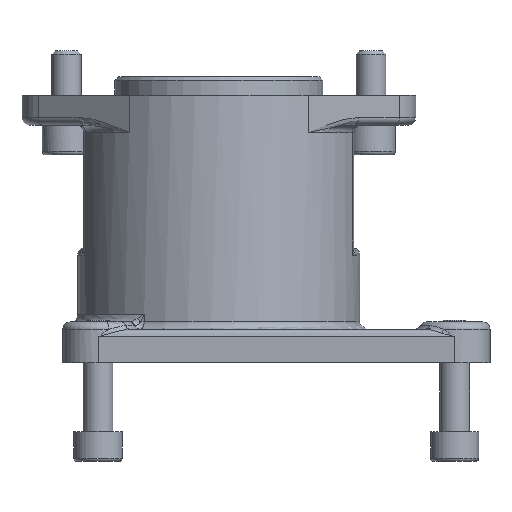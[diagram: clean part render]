
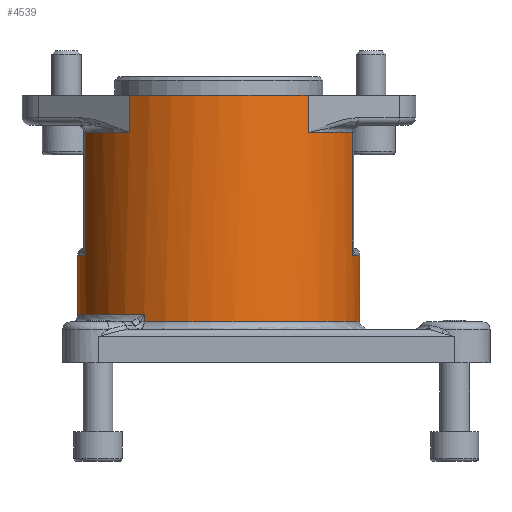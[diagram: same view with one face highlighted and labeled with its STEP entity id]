
A CAD part, left-side view. The second image highlights one B-rep face of the part: STEP entity #4539.
In plain terms, the highlighted cylindrical face has radius 38 mm (diameter 76 mm), a full revolution.
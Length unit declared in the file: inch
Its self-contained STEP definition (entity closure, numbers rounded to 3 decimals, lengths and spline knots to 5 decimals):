
#419=CYLINDRICAL_SURFACE('',#5071,1.49606);
#675=FACE_OUTER_BOUND('',#978,.T.);
#978=EDGE_LOOP('',(#3884,#3885,#3886,#3887,#3888,#3889,#3890,#3891,#3892,
#3893,#3894,#3895,#3896,#3897,#3898,#3899,#3900,#3901,#3902,#3903,#3904,
#3905,#3906,#3907));
#1176=LINE('',#7823,#1400);
#1199=LINE('',#8189,#1423);
#1203=LINE('',#8322,#1427);
#1205=LINE('',#8326,#1429);
#1211=LINE('',#8505,#1435);
#1213=LINE('',#8522,#1437);
#1214=LINE('',#8536,#1438);
#1215=LINE('',#8538,#1439);
#1216=LINE('',#8539,#1440);
#1217=LINE('',#8541,#1441);
#1218=LINE('',#8544,#1442);
#1400=VECTOR('',#6026,0.3937);
#1423=VECTOR('',#6177,0.3937);
#1427=VECTOR('',#6203,0.3937);
#1429=VECTOR('',#6209,0.3937);
#1435=VECTOR('',#6285,0.3937);
#1437=VECTOR('',#6293,0.3937);
#1438=VECTOR('',#6296,0.3937);
#1439=VECTOR('',#6299,0.3937);
#1440=VECTOR('',#6300,1.49606);
#1441=VECTOR('',#6301,0.3937);
#1442=VECTOR('',#6304,0.3937);
#1569=CIRCLE('',#4846,1.49606);
#1570=CIRCLE('',#4847,1.49606);
#1572=CIRCLE('',#4849,1.49606);
#1642=CIRCLE('',#4958,1.49606);
#1643=CIRCLE('',#4959,1.49606);
#1646=CIRCLE('',#4966,1.49606);
#1680=CIRCLE('',#5035,1.49606);
#1689=CIRCLE('',#5048,1.49606);
#1692=CIRCLE('',#5053,1.49606);
#1699=CIRCLE('',#5064,1.49606);
#1702=CIRCLE('',#5072,1.49606);
#1703=CIRCLE('',#5073,1.49606);
#1889=VERTEX_POINT('',#7027);
#1949=VERTEX_POINT('',#7242);
#1952=VERTEX_POINT('',#7247);
#1953=VERTEX_POINT('',#7249);
#1954=VERTEX_POINT('',#7251);
#1957=VERTEX_POINT('',#7257);
#1990=VERTEX_POINT('',#7386);
#2018=VERTEX_POINT('',#7558);
#2020=VERTEX_POINT('',#7686);
#2026=VERTEX_POINT('',#7819);
#2027=VERTEX_POINT('',#7826);
#2063=VERTEX_POINT('',#8234);
#2067=VERTEX_POINT('',#8303);
#2068=VERTEX_POINT('',#8328);
#2070=VERTEX_POINT('',#8372);
#2078=VERTEX_POINT('',#8449);
#2080=VERTEX_POINT('',#8469);
#2083=VERTEX_POINT('',#8486);
#2085=VERTEX_POINT('',#8496);
#2089=VERTEX_POINT('',#8521);
#2090=VERTEX_POINT('',#8540);
#2091=VERTEX_POINT('',#8542);
#2451=EDGE_CURVE('',#1953,#1952,#1569,.T.);
#2452=EDGE_CURVE('',#1954,#1953,#1570,.T.);
#2456=EDGE_CURVE('',#1949,#1957,#1572,.T.);
#2569=EDGE_CURVE('',#2026,#2018,#1176,.T.);
#2571=EDGE_CURVE('',#2026,#2027,#1642,.T.);
#2572=EDGE_CURVE('',#2027,#2020,#1643,.T.);
#2586=EDGE_CURVE('',#1990,#2018,#1646,.T.);
#2641=EDGE_CURVE('',#2020,#1990,#1199,.T.);
#2654=EDGE_CURVE('',#2067,#1949,#1203,.T.);
#2656=EDGE_CURVE('',#2063,#1952,#1205,.T.);
#2658=EDGE_CURVE('',#2068,#2063,#1680,.T.);
#2675=EDGE_CURVE('',#2080,#2078,#1689,.T.);
#2678=EDGE_CURVE('',#2070,#1889,#1692,.T.);
#2685=EDGE_CURVE('',#2067,#2083,#1699,.T.);
#2689=EDGE_CURVE('',#2085,#2080,#1211,.T.);
#2694=EDGE_CURVE('',#1889,#2089,#1213,.T.);
#2696=EDGE_CURVE('',#2078,#1957,#1214,.T.);
#2697=EDGE_CURVE('',#2089,#2085,#1702,.T.);
#2698=EDGE_CURVE('',#2070,#1954,#1215,.T.);
#2699=EDGE_CURVE('',#1953,#2027,#1216,.T.);
#2700=EDGE_CURVE('',#2090,#2068,#1217,.T.);
#2701=EDGE_CURVE('',#2091,#2090,#1703,.T.);
#2702=EDGE_CURVE('',#2083,#2091,#1218,.T.);
#3884=ORIENTED_EDGE('',*,*,#2654,.T.);
#3885=ORIENTED_EDGE('',*,*,#2456,.T.);
#3886=ORIENTED_EDGE('',*,*,#2696,.F.);
#3887=ORIENTED_EDGE('',*,*,#2675,.F.);
#3888=ORIENTED_EDGE('',*,*,#2689,.F.);
#3889=ORIENTED_EDGE('',*,*,#2697,.F.);
#3890=ORIENTED_EDGE('',*,*,#2694,.F.);
#3891=ORIENTED_EDGE('',*,*,#2678,.F.);
#3892=ORIENTED_EDGE('',*,*,#2698,.T.);
#3893=ORIENTED_EDGE('',*,*,#2452,.T.);
#3894=ORIENTED_EDGE('',*,*,#2699,.T.);
#3895=ORIENTED_EDGE('',*,*,#2571,.F.);
#3896=ORIENTED_EDGE('',*,*,#2569,.T.);
#3897=ORIENTED_EDGE('',*,*,#2586,.F.);
#3898=ORIENTED_EDGE('',*,*,#2641,.F.);
#3899=ORIENTED_EDGE('',*,*,#2572,.F.);
#3900=ORIENTED_EDGE('',*,*,#2699,.F.);
#3901=ORIENTED_EDGE('',*,*,#2451,.T.);
#3902=ORIENTED_EDGE('',*,*,#2656,.F.);
#3903=ORIENTED_EDGE('',*,*,#2658,.F.);
#3904=ORIENTED_EDGE('',*,*,#2700,.F.);
#3905=ORIENTED_EDGE('',*,*,#2701,.F.);
#3906=ORIENTED_EDGE('',*,*,#2702,.F.);
#3907=ORIENTED_EDGE('',*,*,#2685,.F.);
#4539=ADVANCED_FACE('',(#675),#419,.T.);
#4846=AXIS2_PLACEMENT_3D('',#7250,#5778,#5779);
#4847=AXIS2_PLACEMENT_3D('',#7252,#5780,#5781);
#4849=AXIS2_PLACEMENT_3D('',#7259,#5786,#5787);
#4958=AXIS2_PLACEMENT_3D('',#7827,#6031,#6032);
#4959=AXIS2_PLACEMENT_3D('',#7828,#6033,#6034);
#4966=AXIS2_PLACEMENT_3D('',#7874,#6054,#6055);
#5035=AXIS2_PLACEMENT_3D('',#8330,#6214,#6215);
#5048=AXIS2_PLACEMENT_3D('',#8471,#6244,#6245);
#5053=AXIS2_PLACEMENT_3D('',#8476,#6254,#6255);
#5064=AXIS2_PLACEMENT_3D('',#8490,#6276,#6277);
#5071=AXIS2_PLACEMENT_3D('',#8535,#6294,#6295);
#5072=AXIS2_PLACEMENT_3D('',#8537,#6297,#6298);
#5073=AXIS2_PLACEMENT_3D('',#8543,#6302,#6303);
#5778=DIRECTION('center_axis',(0.,0.,-1.));
#5779=DIRECTION('ref_axis',(-1.,0.,0.));
#5780=DIRECTION('center_axis',(0.,0.,-1.));
#5781=DIRECTION('ref_axis',(-1.,0.,0.));
#5786=DIRECTION('center_axis',(0.,0.,-1.));
#5787=DIRECTION('ref_axis',(-1.,0.,0.));
#6026=DIRECTION('',(0.,0.,1.));
#6031=DIRECTION('center_axis',(0.,0.,-1.));
#6032=DIRECTION('ref_axis',(0.,-1.,0.));
#6033=DIRECTION('center_axis',(0.,0.,-1.));
#6034=DIRECTION('ref_axis',(0.,-1.,0.));
#6054=DIRECTION('center_axis',(0.,0.,-1.));
#6055=DIRECTION('ref_axis',(0.,1.,0.));
#6177=DIRECTION('',(0.,0.,1.));
#6203=DIRECTION('',(0.,0.,1.));
#6209=DIRECTION('',(0.,0.,1.));
#6214=DIRECTION('center_axis',(0.,0.,
1.));
#6215=DIRECTION('ref_axis',(0.572,-0.821,0.));
#6244=DIRECTION('center_axis',(0.,0.,
1.));
#6245=DIRECTION('ref_axis',(-0.572,0.821,0.));
#6254=DIRECTION('center_axis',(0.,0.,
1.));
#6255=DIRECTION('ref_axis',(0.572,0.821,0.));
#6276=DIRECTION('center_axis',(0.,0.,
1.));
#6277=DIRECTION('ref_axis',(-0.572,-0.821,0.));
#6285=DIRECTION('',(0.,0.,1.));
#6293=DIRECTION('',(0.,0.,-1.));
#6294=DIRECTION('center_axis',(0.,0.,1.));
#6295=DIRECTION('ref_axis',(-1.,0.,0.));
#6296=DIRECTION('',(0.,0.,1.));
#6297=DIRECTION('center_axis',(0.,0.,1.));
#6298=DIRECTION('ref_axis',(0.,1.,0.));
#6299=DIRECTION('',(0.,0.,1.));
#6300=DIRECTION('',(0.,0.,-1.));
#6301=DIRECTION('',(0.,0.,1.));
#6302=DIRECTION('center_axis',(0.,0.,1.));
#6303=DIRECTION('ref_axis',(0.,-1.,0.));
#6304=DIRECTION('',(0.,0.,-1.));
#7027=CARTESIAN_POINT('',(0.48879,1.41396,2.44094));
#7242=CARTESIAN_POINT('',(-1.15678,-0.94872,2.83465));
#7247=CARTESIAN_POINT('',(1.15678,-0.94872,2.83465));
#7249=CARTESIAN_POINT('',(1.49606,0.,2.83465));
#7250=CARTESIAN_POINT('Origin',(0.,0.,2.83465));
#7251=CARTESIAN_POINT('',(1.15678,0.94872,2.83465));
#7252=CARTESIAN_POINT('Origin',(0.,0.,2.83465));
#7257=CARTESIAN_POINT('',(-1.15678,0.94872,2.83465));
#7259=CARTESIAN_POINT('Origin',(0.,0.,2.83465));
#7386=CARTESIAN_POINT('',(-1.2703,0.79028,0.51181));
#7558=CARTESIAN_POINT('',(1.2703,0.79028,0.51181));
#7686=CARTESIAN_POINT('',(-1.2703,0.79028,0.43307));
#7819=CARTESIAN_POINT('',(1.2703,0.79028,0.43307));
#7823=CARTESIAN_POINT('',(1.2703,0.79028,0.));
#7826=CARTESIAN_POINT('',(1.49606,0.,0.43307));
#7827=CARTESIAN_POINT('Origin',(0.,0.,0.43307));
#7828=CARTESIAN_POINT('Origin',(0.,0.,0.43307));
#7874=CARTESIAN_POINT('Origin',(0.,0.,0.51181));
#8189=CARTESIAN_POINT('',(-1.2703,0.79028,0.));
#8234=CARTESIAN_POINT('',(1.15678,-0.94872,2.44094));
#8303=CARTESIAN_POINT('',(-1.15678,-0.94872,2.44094));
#8322=CARTESIAN_POINT('',(-1.15678,-0.94872,0.));
#8326=CARTESIAN_POINT('',(1.15678,-0.94872,0.));
#8328=CARTESIAN_POINT('',(0.48879,-1.41396,2.44094));
#8330=CARTESIAN_POINT('Origin',(0.,0.,2.44094));
#8372=CARTESIAN_POINT('',(1.15678,0.94872,2.44094));
#8449=CARTESIAN_POINT('',(-1.15678,0.94872,2.44094));
#8469=CARTESIAN_POINT('',(-0.48879,1.41396,2.44094));
#8471=CARTESIAN_POINT('Origin',(0.,0.,2.44094));
#8476=CARTESIAN_POINT('Origin',(0.,0.,2.44094));
#8486=CARTESIAN_POINT('',(-0.48879,-1.41396,2.44094));
#8490=CARTESIAN_POINT('Origin',(0.,0.,2.44094));
#8496=CARTESIAN_POINT('',(-0.48879,1.41396,1.14173));
#8505=CARTESIAN_POINT('',(-0.48879,1.41396,0.));
#8521=CARTESIAN_POINT('',(0.48879,1.41396,1.14173));
#8522=CARTESIAN_POINT('',(0.48879,1.41396,0.));
#8535=CARTESIAN_POINT('Origin',(0.,0.,0.));
#8536=CARTESIAN_POINT('',(-1.15678,0.94872,0.));
#8537=CARTESIAN_POINT('Origin',(0.,0.,1.14173));
#8538=CARTESIAN_POINT('',(1.15678,0.94872,0.));
#8539=CARTESIAN_POINT('',(1.49606,0.,0.));
#8540=CARTESIAN_POINT('',(0.48879,-1.41396,1.14173));
#8541=CARTESIAN_POINT('',(0.48879,-1.41396,0.));
#8542=CARTESIAN_POINT('',(-0.48879,-1.41396,1.14173));
#8543=CARTESIAN_POINT('Origin',(0.,0.,1.14173));
#8544=CARTESIAN_POINT('',(-0.48879,-1.41396,0.));
